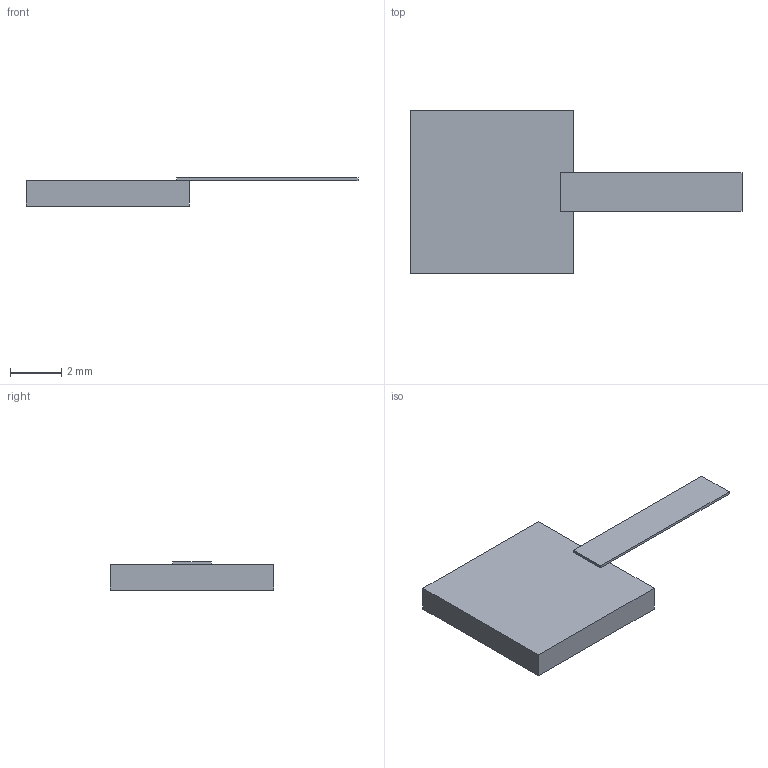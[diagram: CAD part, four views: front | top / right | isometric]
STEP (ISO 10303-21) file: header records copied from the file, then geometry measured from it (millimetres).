
FILE_DESCRIPTION(('STEP AP203'), '1');
FILE_NAME('P1-170-60-15', '', ('UNSPECIFIED'), ('UNSPECIFIED'), 'ASCON STEP Converter 1.6', 'ASCON Math Kernel', '');
FILE_SCHEMA(('CONFIG_CONTROL_DESIGN'));
Length unit declared in the file: millimetre
Bounding box: 13 x 6.4 x 1.1 mm (x, y, z)
Volume: 42 mm3; surface area: 129 mm2
Topology: 1 solids, 1 shells, 12 faces, 28 edges, 18 vertices
Faces by surface type: plane 12
Entity records: 476 total; most frequent: CARTESIAN_POINT 59, ORIENTED_EDGE 56, DIRECTION 54, EDGE_CURVE 28, LINE 28, VECTOR 28, VERTEX_POINT 18, AXIS2_PLACEMENT_3D 13
